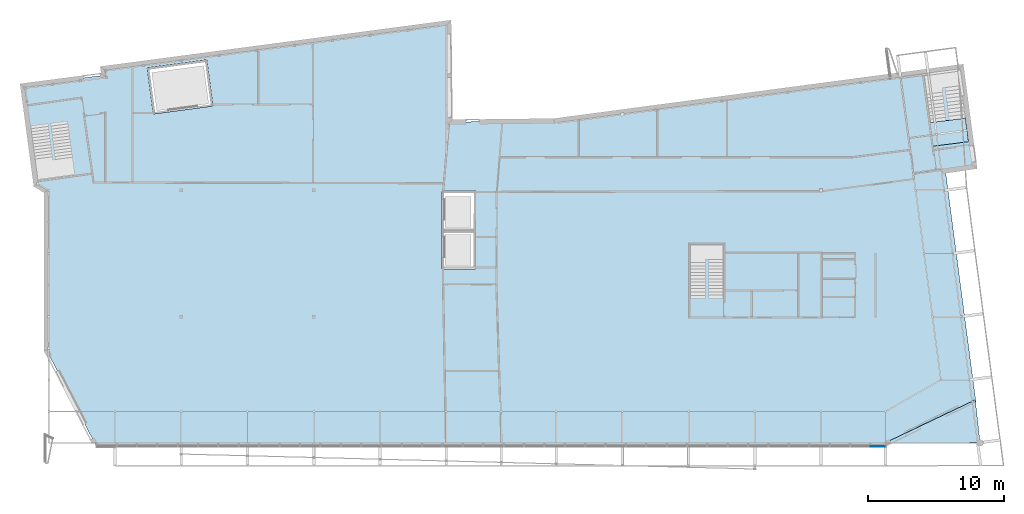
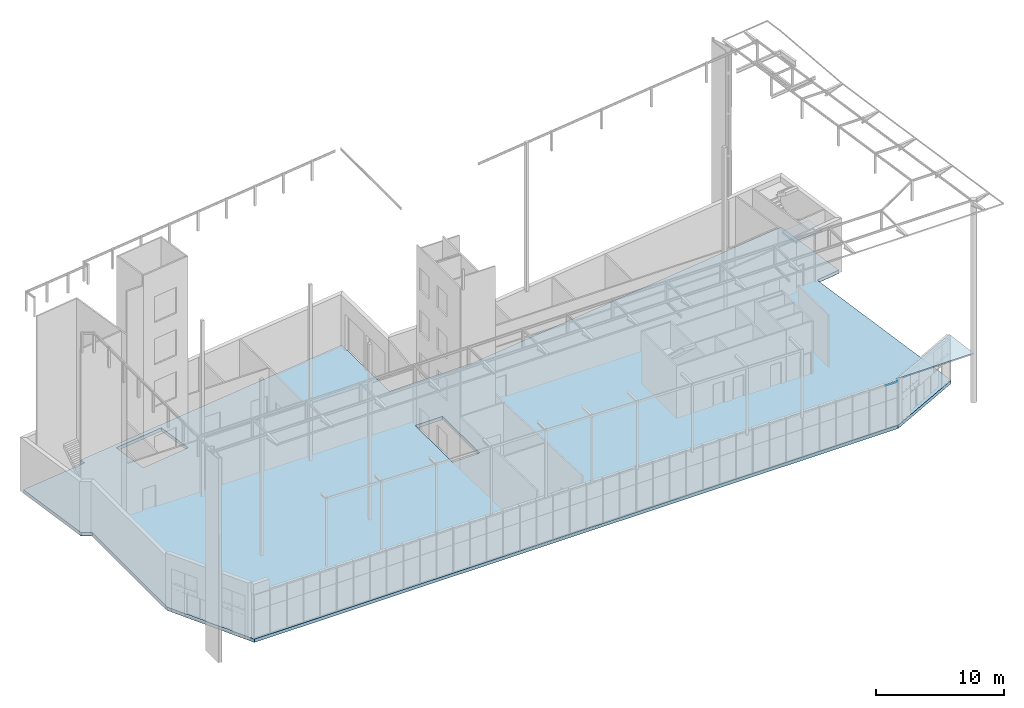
# One storey, part 22 of 40: 3 slabs, 1 plate, 2 openings, 1 element without a shape of its own.
"""IFC2X3 building model written with IfcOpenShell, lengths in metres."""

from ifc_helpers import new_model, entity, si_unit, converted_unit, money_unit, direction, frame, origin_with_axes, place, context, subcontext, project, spatial, polyline, outline, extrude, material, layer, layer_set, layer_usage, type_object, element, aggregate, save


model = new_model("IFC2X3")

# Units and contexts
model_context = context("Model", 3, precision=1e-05, world=origin_with_axes(), true_north=direction((0.0, 1.0)))
body_context = subcontext(model_context, "Body", "Model", "MODEL_VIEW")
ifc_project = project(units=[si_unit("LENGTHUNIT", "METRE"), si_unit("AREAUNIT", "SQUARE_METRE"), si_unit("VOLUMEUNIT", "CUBIC_METRE"), converted_unit("PLANEANGLEUNIT", "DEGREE", entity("IfcPlaneAngleMeasure", 0.0174532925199), si_unit("PLANEANGLEUNIT", "RADIAN"), dimensions=[0, 0, 0, 0, 0, 0, 0]), si_unit("SOLIDANGLEUNIT", "STERADIAN"), money_unit("EUR"), converted_unit("TIMEUNIT", "Year", entity("IfcTimeMeasure", 31556926.0), si_unit("TIMEUNIT", "SECOND"), dimensions=[0, 0, 0, 0, 0, 0, 0]), si_unit("MASSUNIT", "GRAM"), si_unit("THERMODYNAMICTEMPERATUREUNIT", "DEGREE_CELSIUS"), si_unit("LUMINOUSINTENSITYUNIT", "LUMEN")], contexts=[model_context])

# Site, building, storey
site_placement = place(None, origin_with_axes())
site = spatial("IfcSite", under=ifc_project, at=site_placement, Name="Undefined", CompositionType="ELEMENT")
building_placement = place(site_placement, origin_with_axes())
building = spatial("IfcBuilding", under=site, at=building_placement, Name="Undefined", CompositionType="ELEMENT")
storey_placement = place(building_placement, origin_with_axes())
storey = spatial("IfcBuildingStorey", under=building, at=storey_placement, Name="Rez de chauss\x8ee", CompositionType="ELEMENT", Elevation=0.0)

# Slab, openings
ifc_material_1 = material(Name="Finition sol - Parquet")
ifc_layer_1 = layer(ifc_material_1, 0.015, ventilated="UNKNOWN")
ifc_material_2 = material(Name="Struct. - Chape")
ifc_layer_2 = layer(ifc_material_2, 0.045, ventilated="UNKNOWN")
ifc_material_3 = material(Name="Isolation Int. - Polyur\x8ethane")
ifc_layer_3 = layer(ifc_material_3, 0.06, ventilated="UNKNOWN")
ifc_material_4 = material(Name="Struct. - B.A. coul\x8e")
ifc_layer_4 = layer(ifc_material_4, 0.18, ventilated="UNKNOWN")
ifc_material_5 = material(Name="Finition int - Enduit pl\x89tre")
ifc_layer_5 = layer(ifc_material_5, 0.015, ventilated="UNKNOWN")
ifc_layer_set_1 = layer_set([ifc_layer_1, ifc_layer_2, ifc_layer_3, ifc_layer_4, ifc_layer_5], Name="5.0-Dalle & Chape avec parquet coll\x8e (D\x8etaill\x8e)")
ifc_layer_usage_1 = layer_usage(ifc_layer_set_1, "AXIS3", "NEGATIVE", 0.315)
slab_type_1 = type_object("IfcSlabType", Name="200*31407", PredefinedType="NOTDEFINED")
slab_1_placement = place(storey_placement, frame((4.04911663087, 27.0799447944, 0.12), z_axis=(0.0, 0.0, 1.0), x_axis=(1.0, 0.0, 0.0)))
slab_1 = element("IfcSlab", 1, at=slab_1_placement, inside=storey, type_object=slab_type_1, material=ifc_layer_usage_1, Name="SLAB", ObjectType="SLAB_GROUND", context=body_context, shape_type="SweptSolid", body=[
    extrude(outline(polyline([(0.0, 0.0), (-5.96531416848, -0.771910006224), (-4.98962791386, -8.08430886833), (-4.22924866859, -8.53651235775), (-4.22924866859, -20.2351583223), (-0.518297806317, -27.4131328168), (57.5606314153, -27.3263121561), (57.7671090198, -27.2236699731), (64.212993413, -24.0812917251), (64.185611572, -23.8949195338), (61.9653295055, -7.04662133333), (64.1203206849, -6.73420649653), (63.1455103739, 0.626779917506), (33.1819727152, -3.35495012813), (25.4995128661, -3.44293378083), (25.4132101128, 3.86874255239), (-0.0658866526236, 0.49379430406), (0.0, 0.0)])), frame((0.0, 0.0, -0.315), z_axis=(0.0, 0.0, 1.0), x_axis=(1.0, 0.0, 0.0)), (0.0, 0.0, 1.0), 0.315),
])
opening_1_placement = place(slab_1_placement, origin_with_axes())
element("IfcOpeningElement", 2, at=opening_1_placement, cuts=slab_1, Name="Slab Opening", context=body_context, shape_type="SweptSolid", body=[
    extrude(outline(polyline([(3.18720739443, 0.546634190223), (3.63885167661, -2.85521058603), (8.02994755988, -2.26932358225), (7.57630844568, 1.13054576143), (3.18720739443, 0.546634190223)])), frame((0.0, 0.0, -0.315), z_axis=(0.0, 0.0, 1.0), x_axis=(1.0, 0.0, 0.0)), (0.0, 0.0, 1.0), 0.315),
])
opening_2_placement = place(slab_1_placement, origin_with_axes())
element("IfcOpeningElement", 3, at=opening_2_placement, cuts=slab_1, Name="Slab Opening", context=body_context, shape_type="SweptSolid", body=[
    extrude(outline(polyline([(24.9019263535, -8.67987610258), (24.9119598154, -8.67988791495), (24.9053869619, -14.262890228), (27.3787160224, -14.262890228), (27.3787160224, -8.50171108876), (24.9173801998, -8.49973075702), (24.9019263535, -8.67987610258)])), frame((0.0, 0.0, -0.315), z_axis=(0.0, 0.0, 1.0), x_axis=(1.0, 0.0, 0.0)), (0.0, 0.0, 1.0), 0.315),
])

# Curtain wall, plate
curtain_wall_type = type_object("IfcCurtainWallType", Name="Type de mur-rideau", PredefinedType="NOTDEFINED")
curtain_wall_placement = place(storey_placement, frame((61.0415862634, -0.249999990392, 0.1), z_axis=(0.0, 0.0, 1.0), x_axis=(1.0, 0.0, 0.0)))
curtain_wall = element("IfcCurtainWall", 4, at=curtain_wall_placement, inside=storey, type_object=curtain_wall_type, Name="CurtainWall_02", ObjectType="CURTAIN WALL")
ifc_material_6 = material(Name="Background 7019220")
plate_type = type_object("IfcPlateType", Name="Panneau secondaire 1037 x 25 x 20", PredefinedType="NOTDEFINED")
plate_placement = place(curtain_wall_placement, frame((0.0, 0.0, 4.25), z_axis=(0.0, 0.0, 1.0), x_axis=(-1.0, 1.7206718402e-08, 0.0)))
plate = element("IfcPlate", 5, at=plate_placement, type_object=plate_type, material=ifc_material_6, Name="Panel-Dist-158", context=body_context, shape_type="SweptSolid", body=[
    extrude(outline(polyline([(0.01, 0.005), (1.04682746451, 0.005), (1.04682746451, 0.03), (0.01, 0.03), (0.01, 0.005)])), frame((0.558413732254, 0.0, -0.05), z_axis=(0.0, 1.0, 0.0), x_axis=(-1.0, 0.0, 0.0)), (0.0, 0.0, 1.0), 0.02),
])
aggregate(curtain_wall, [plate])

# Slabs
ifc_material_7 = material(Name="% Ê25 359672764")
ifc_layer_6 = layer(ifc_material_7, 0.13, ventilated="UNKNOWN")
ifc_layer_set_2 = layer_set([ifc_layer_6], Name="% Ê25 359672764 0.13")
ifc_layer_usage_2 = layer_usage(ifc_layer_set_2, "AXIS3", "NEGATIVE", 0.13)
slab_type_2 = type_object("IfcSlabType", Name="% Ê25 359672764 130", PredefinedType="FLOOR")
slab_2_placement = place(storey_placement, frame((61.5383119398, 0.0, 4.4), z_axis=(0.0, 0.0, 1.0), x_axis=(1.0, 0.0, 0.0)))
element("IfcSlab", 6, at=slab_2_placement, inside=storey, type_object=slab_type_2, material=ifc_layer_usage_2, Name="SLAB", ObjectType="200*31407", PredefinedType="FLOOR", context=body_context, shape_type="SweptSolid", body=[
    extrude(outline(polyline([(0.0, 0.0), (7.02393321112, 0.0223674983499), (6.67230029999, 3.17863370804), (0.0, 0.0)])), frame((0.0, 0.0, -0.13), z_axis=(0.0, 0.0, 1.0), x_axis=(1.0, 0.0, 0.0)), (0.0, 0.0, 1.0), 0.13),
])
ifc_layer_7 = layer(ifc_material_7, 0.2, ventilated="UNKNOWN")
ifc_layer_set_3 = layer_set([ifc_layer_7], Name="% Ê25 359672764 0.2")
ifc_layer_usage_3 = layer_usage(ifc_layer_set_3, "AXIS3", "NEGATIVE", 0.2)
slab_type_3 = type_object("IfcSlabType", Name="% Ê25 359672764 200", PredefinedType="FLOOR")
slab_3_placement = place(storey_placement, frame((65.0994649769, 21.8567584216, 2.98143502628), z_axis=(0.0, 0.0, 1.0), x_axis=(1.0, 0.0, 0.0)))
element("IfcSlab", 7, at=slab_3_placement, inside=storey, type_object=slab_type_3, material=ifc_layer_usage_3, Name="SLAB", ObjectType="200*31407", PredefinedType="FLOOR", context=body_context, shape_type="SweptSolid", body=[
    extrude(outline(polyline([(0.0, 0.0), (2.60448595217, 0.327533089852), (2.38658267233, 2.06026193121), (-0.217903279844, 1.73272884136), (0.0, 0.0)])), frame((0.0, 0.0, -0.2), z_axis=(0.0, 0.0, 1.0), x_axis=(1.0, 0.0, 0.0)), (0.0, 0.0, 1.0), 0.2),
])

save(model, "model.ifc")
